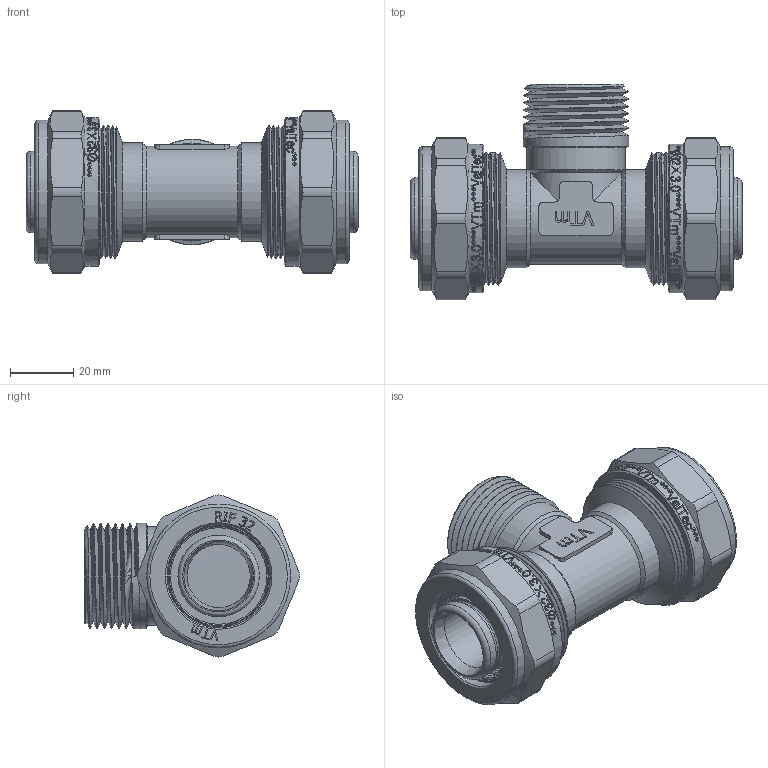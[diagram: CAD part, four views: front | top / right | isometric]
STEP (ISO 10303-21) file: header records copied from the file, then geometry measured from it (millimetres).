
FILE_DESCRIPTION(/* description */ (''),/* implementation_level */ '2;1');
FILE_NAME(/* name */ 'F:\Артём\00000\Работа удаленка\Обжимные фитинги\VTm.333.N.320632.stp',/* time_stamp */ '2020-07-30T10:10:13+03:00',/* author */ ('almis'),/* organization */ (''),/* preprocessor_version */ 'ST-DEVELOPER v18',/* originating_system */ 'Autodesk Inventor 2020',/* authorisation */ '');
FILE_SCHEMA (('AUTOMOTIVE_DESIGN { 1 0 10303 214 3 1 1 }'));
Length unit declared in the file: millimetre
Products named in the file (1): VTm.332.N.320632
Bounding box: 105 x 68.15 x 51.3 mm (x, y, z)
Volume: 87492.9 mm3; surface area: 48073.5 mm2
Topology: 1 solids, 1 shells, 1460 faces, 4152 edges, 2795 vertices
Faces by surface type: bspline 764, plane 406, cylinder 208, torus 48, cone 34
Full cylindrical faces by diameter (mm): 20 x1, 23.4 x4, 24.5 x1, 25.75 x10, 28.7 x8, 29 x1, 30.538 x8, 31 x3, 31.683 x10, 32.2 x2, 32.7 x2, 33.3 x7, 35.5 x2, 40.38 x16, 40.5 x7, 42 x6, 45.5 x2, 47 x2
Entity records: 65986 total; most frequent: CARTESIAN_POINT 33043, ORIENTED_EDGE 8310, DIRECTION 4365, EDGE_CURVE 4155, VERTEX_POINT 2798, LINE 1789, VECTOR 1789, B_SPLINE_CURVE_WITH_KNOTS 1743
